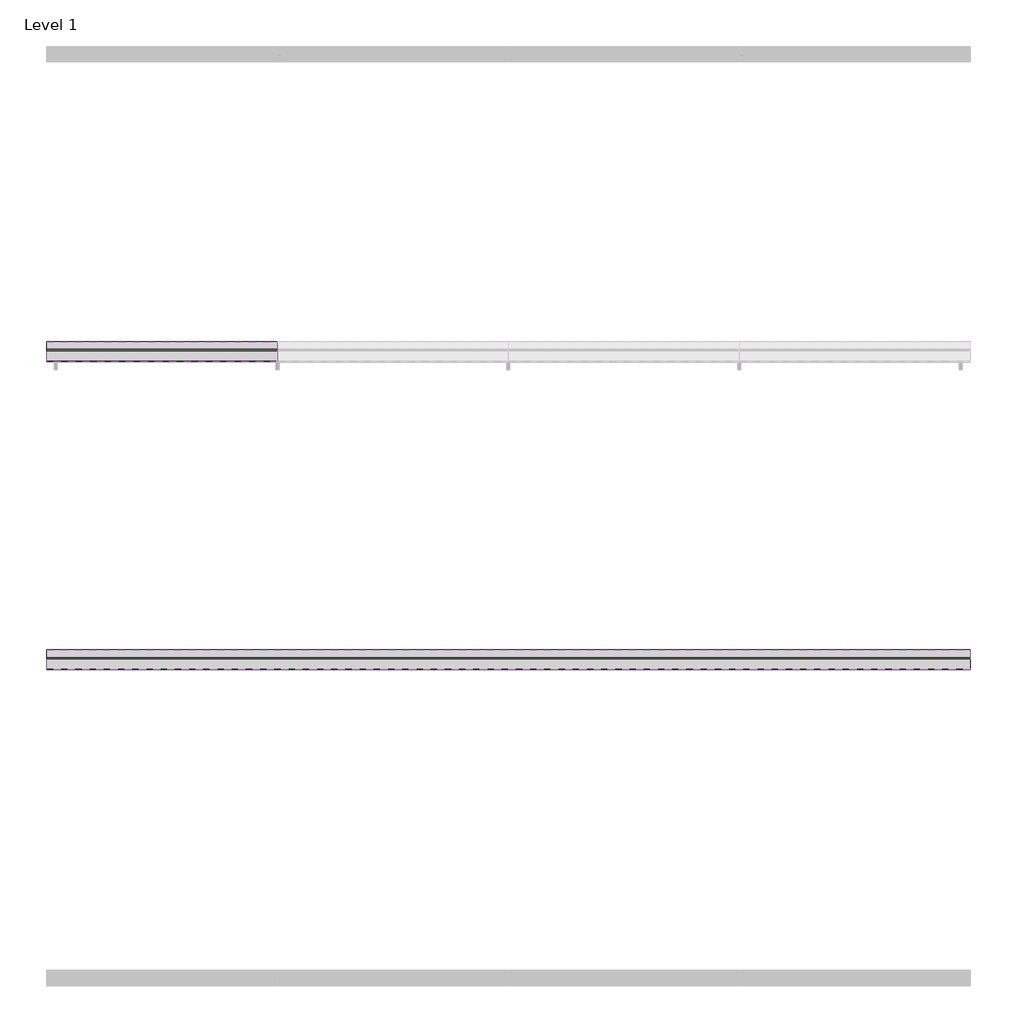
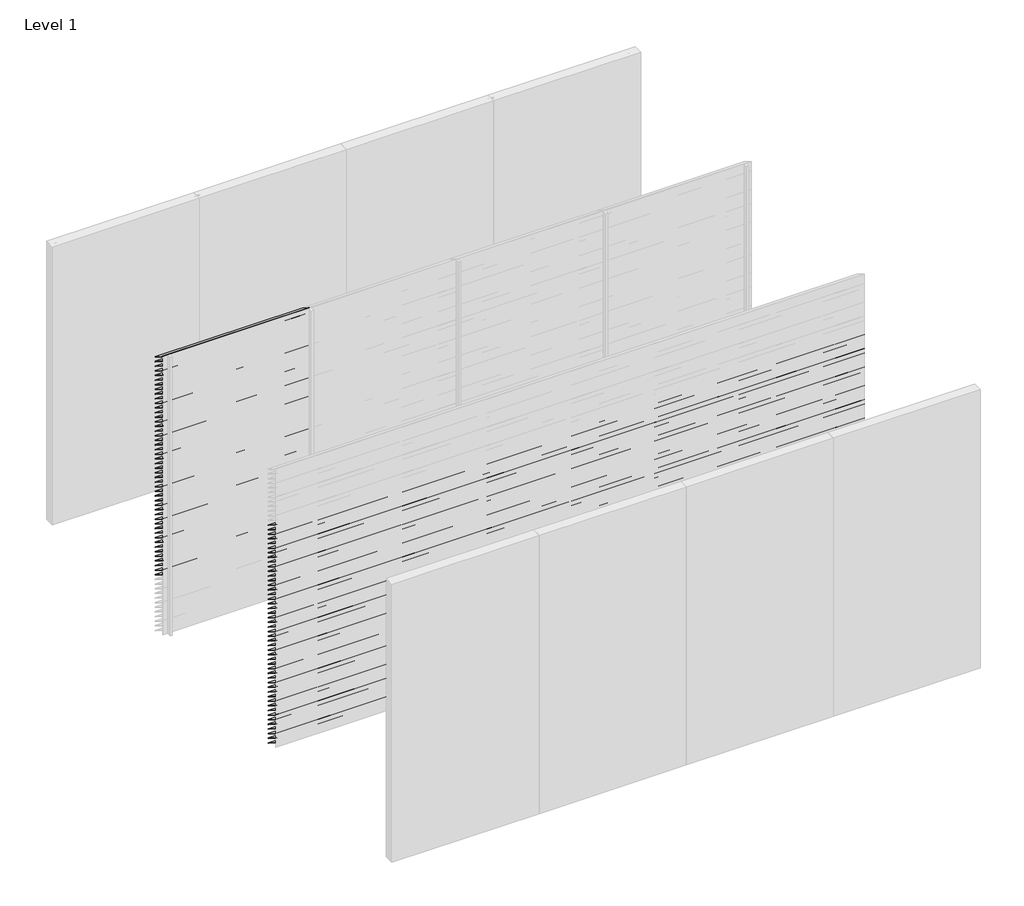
# One storey, part 8 of 13: 96 proxies.
"""IFC4 building model written with IfcOpenShell, lengths in millimetres."""

from ifc_helpers import new_model, si_unit, frame, origin, place, context, project, spatial, polyline, outline, extrude, element, save

model = new_model("IFC4")

# Units and contexts
model_context = context("Model", 3, world=origin())
ifc_project = project(units=[si_unit("LENGTHUNIT", "METRE", prefix="MILLI")], contexts=[model_context])

# Site, building, storey
site = spatial("IfcSite", under=ifc_project)
building = spatial("IfcBuilding", under=site)
storey = spatial("IfcBuildingStorey", under=building, Name="Level 1", Elevation=0.0)

# Proxies
placement = place(None, origin())
element("IfcBuildingElementProxy", 1, Name="Wall Sweeps", at=placement, inside=storey, context=model_context, shape_type="SweptSolid", body=[
    extrude(outline(polyline([(-5995.0, 3000.0), (-5995.0, 2998.0), (-5868.0, 2919.0), (-5868.0, 2913.0), (-5997.0, 2993.2440945), (-5997.0, 3000.0), (-5995.0, 3000.0)])), frame((0.0, 0.0, 0.0), z_axis=(1.0, 0.0, 0.0), x_axis=(0.0, 1.0, 0.0)), (0.0, 0.0, 1.0), 1500.0),
])
element("IfcBuildingElementProxy", 2, Name="Wall Sweeps", at=placement, inside=storey, context=model_context, shape_type="SweptSolid", body=[
    extrude(outline(polyline([(-5995.0, 2950.0), (-5995.0, 2948.0), (-5868.0, 2869.0), (-5868.0, 2863.0), (-5997.0, 2943.2440945), (-5997.0, 2950.0), (-5995.0, 2950.0)])), frame((0.0, 0.0, 0.0), z_axis=(1.0, 0.0, 0.0), x_axis=(0.0, 1.0, 0.0)), (0.0, 0.0, 1.0), 1500.0),
])
element("IfcBuildingElementProxy", 3, Name="Wall Sweeps", at=placement, inside=storey, context=model_context, shape_type="SweptSolid", body=[
    extrude(outline(polyline([(-5995.0, 2900.0), (-5995.0, 2898.0), (-5868.0, 2819.0), (-5868.0, 2813.0), (-5997.0, 2893.2440945), (-5997.0, 2900.0), (-5995.0, 2900.0)])), frame((0.0, 0.0, 0.0), z_axis=(1.0, 0.0, 0.0), x_axis=(0.0, 1.0, 0.0)), (0.0, 0.0, 1.0), 1500.0),
])
element("IfcBuildingElementProxy", 4, Name="Wall Sweeps", at=placement, inside=storey, context=model_context, shape_type="SweptSolid", body=[
    extrude(outline(polyline([(-5995.0, 2850.0), (-5995.0, 2848.0), (-5868.0, 2769.0), (-5868.0, 2763.0), (-5997.0, 2843.2440945), (-5997.0, 2850.0), (-5995.0, 2850.0)])), frame((0.0, 0.0, 0.0), z_axis=(1.0, 0.0, 0.0), x_axis=(0.0, 1.0, 0.0)), (0.0, 0.0, 1.0), 1500.0),
])
element("IfcBuildingElementProxy", 5, Name="Wall Sweeps", at=placement, inside=storey, context=model_context, shape_type="SweptSolid", body=[
    extrude(outline(polyline([(-5995.0, 2800.0), (-5995.0, 2798.0), (-5868.0, 2719.0), (-5868.0, 2713.0), (-5997.0, 2793.2440945), (-5997.0, 2800.0), (-5995.0, 2800.0)])), frame((0.0, 0.0, 0.0), z_axis=(1.0, 0.0, 0.0), x_axis=(0.0, 1.0, 0.0)), (0.0, 0.0, 1.0), 1500.0),
])
element("IfcBuildingElementProxy", 6, Name="Wall Sweeps", at=placement, inside=storey, context=model_context, shape_type="SweptSolid", body=[
    extrude(outline(polyline([(-5995.0, 2750.0), (-5995.0, 2748.0), (-5868.0, 2669.0), (-5868.0, 2663.0), (-5997.0, 2743.2440945), (-5997.0, 2750.0), (-5995.0, 2750.0)])), frame((0.0, 0.0, 0.0), z_axis=(1.0, 0.0, 0.0), x_axis=(0.0, 1.0, 0.0)), (0.0, 0.0, 1.0), 1500.0),
])
element("IfcBuildingElementProxy", 7, Name="Wall Sweeps", at=placement, inside=storey, context=model_context, shape_type="SweptSolid", body=[
    extrude(outline(polyline([(-5995.0, 2700.0), (-5995.0, 2698.0), (-5868.0, 2619.0), (-5868.0, 2613.0), (-5997.0, 2693.2440945), (-5997.0, 2700.0), (-5995.0, 2700.0)])), frame((0.0, 0.0, 0.0), z_axis=(1.0, 0.0, 0.0), x_axis=(0.0, 1.0, 0.0)), (0.0, 0.0, 1.0), 1500.0),
])
element("IfcBuildingElementProxy", 8, Name="Wall Sweeps", at=placement, inside=storey, context=model_context, shape_type="SweptSolid", body=[
    extrude(outline(polyline([(-5995.0, 2650.0), (-5995.0, 2648.0), (-5868.0, 2569.0), (-5868.0, 2563.0), (-5997.0, 2643.2440945), (-5997.0, 2650.0), (-5995.0, 2650.0)])), frame((0.0, 0.0, 0.0), z_axis=(1.0, 0.0, 0.0), x_axis=(0.0, 1.0, 0.0)), (0.0, 0.0, 1.0), 1500.0),
])
element("IfcBuildingElementProxy", 9, Name="Wall Sweeps", at=placement, inside=storey, context=model_context, shape_type="SweptSolid", body=[
    extrude(outline(polyline([(-5995.0, 2600.0), (-5995.0, 2598.0), (-5868.0, 2519.0), (-5868.0, 2513.0), (-5997.0, 2593.2440945), (-5997.0, 2600.0), (-5995.0, 2600.0)])), frame((0.0, 0.0, 0.0), z_axis=(1.0, 0.0, 0.0), x_axis=(0.0, 1.0, 0.0)), (0.0, 0.0, 1.0), 1500.0),
])
element("IfcBuildingElementProxy", 10, Name="Wall Sweeps", at=placement, inside=storey, context=model_context, shape_type="SweptSolid", body=[
    extrude(outline(polyline([(-5995.0, 2550.0), (-5995.0, 2548.0), (-5868.0, 2469.0), (-5868.0, 2463.0), (-5997.0, 2543.2440945), (-5997.0, 2550.0), (-5995.0, 2550.0)])), frame((0.0, 0.0, 0.0), z_axis=(1.0, 0.0, 0.0), x_axis=(0.0, 1.0, 0.0)), (0.0, 0.0, 1.0), 1500.0),
])
element("IfcBuildingElementProxy", 11, Name="Wall Sweeps", at=placement, inside=storey, context=model_context, shape_type="SweptSolid", body=[
    extrude(outline(polyline([(-5995.0, 2500.0), (-5995.0, 2498.0), (-5868.0, 2419.0), (-5868.0, 2413.0), (-5997.0, 2493.2440945), (-5997.0, 2500.0), (-5995.0, 2500.0)])), frame((0.0, 0.0, 0.0), z_axis=(1.0, 0.0, 0.0), x_axis=(0.0, 1.0, 0.0)), (0.0, 0.0, 1.0), 1500.0),
])
element("IfcBuildingElementProxy", 12, Name="Wall Sweeps", at=placement, inside=storey, context=model_context, shape_type="SweptSolid", body=[
    extrude(outline(polyline([(-5995.0, 2450.0), (-5995.0, 2448.0), (-5868.0, 2369.0), (-5868.0, 2363.0), (-5997.0, 2443.2440945), (-5997.0, 2450.0), (-5995.0, 2450.0)])), frame((0.0, 0.0, 0.0), z_axis=(1.0, 0.0, 0.0), x_axis=(0.0, 1.0, 0.0)), (0.0, 0.0, 1.0), 1500.0),
])
element("IfcBuildingElementProxy", 13, Name="Wall Sweeps", at=placement, inside=storey, context=model_context, shape_type="SweptSolid", body=[
    extrude(outline(polyline([(-5995.0, 2400.0), (-5995.0, 2398.0), (-5868.0, 2319.0), (-5868.0, 2313.0), (-5997.0, 2393.2440945), (-5997.0, 2400.0), (-5995.0, 2400.0)])), frame((0.0, 0.0, 0.0), z_axis=(1.0, 0.0, 0.0), x_axis=(0.0, 1.0, 0.0)), (0.0, 0.0, 1.0), 1500.0),
])
element("IfcBuildingElementProxy", 14, Name="Wall Sweeps", at=placement, inside=storey, context=model_context, shape_type="SweptSolid", body=[
    extrude(outline(polyline([(-5995.0, 2350.0), (-5995.0, 2348.0), (-5868.0, 2269.0), (-5868.0, 2263.0), (-5997.0, 2343.2440945), (-5997.0, 2350.0), (-5995.0, 2350.0)])), frame((0.0, 0.0, 0.0), z_axis=(1.0, 0.0, 0.0), x_axis=(0.0, 1.0, 0.0)), (0.0, 0.0, 1.0), 1500.0),
])
element("IfcBuildingElementProxy", 15, Name="Wall Sweeps", at=placement, inside=storey, context=model_context, shape_type="SweptSolid", body=[
    extrude(outline(polyline([(-5995.0, 2300.0), (-5995.0, 2298.0), (-5868.0, 2219.0), (-5868.0, 2213.0), (-5997.0, 2293.2440945), (-5997.0, 2300.0), (-5995.0, 2300.0)])), frame((0.0, 0.0, 0.0), z_axis=(1.0, 0.0, 0.0), x_axis=(0.0, 1.0, 0.0)), (0.0, 0.0, 1.0), 1500.0),
])
element("IfcBuildingElementProxy", 16, Name="Wall Sweeps", at=placement, inside=storey, context=model_context, shape_type="SweptSolid", body=[
    extrude(outline(polyline([(-5995.0, 2250.0), (-5995.0, 2248.0), (-5868.0, 2169.0), (-5868.0, 2163.0), (-5997.0, 2243.2440945), (-5997.0, 2250.0), (-5995.0, 2250.0)])), frame((0.0, 0.0, 0.0), z_axis=(1.0, 0.0, 0.0), x_axis=(0.0, 1.0, 0.0)), (0.0, 0.0, 1.0), 1500.0),
])
element("IfcBuildingElementProxy", 17, Name="Wall Sweeps", at=placement, inside=storey, context=model_context, shape_type="SweptSolid", body=[
    extrude(outline(polyline([(-5995.0, 2200.0), (-5995.0, 2198.0), (-5868.0, 2119.0), (-5868.0, 2113.0), (-5997.0, 2193.2440945), (-5997.0, 2200.0), (-5995.0, 2200.0)])), frame((0.0, 0.0, 0.0), z_axis=(1.0, 0.0, 0.0), x_axis=(0.0, 1.0, 0.0)), (0.0, 0.0, 1.0), 1500.0),
])
element("IfcBuildingElementProxy", 18, Name="Wall Sweeps", at=placement, inside=storey, context=model_context, shape_type="SweptSolid", body=[
    extrude(outline(polyline([(-5995.0, 2150.0), (-5995.0, 2148.0), (-5868.0, 2069.0), (-5868.0, 2063.0), (-5997.0, 2143.2440945), (-5997.0, 2150.0), (-5995.0, 2150.0)])), frame((0.0, 0.0, 0.0), z_axis=(1.0, 0.0, 0.0), x_axis=(0.0, 1.0, 0.0)), (0.0, 0.0, 1.0), 1500.0),
])
element("IfcBuildingElementProxy", 19, Name="Wall Sweeps", at=placement, inside=storey, context=model_context, shape_type="SweptSolid", body=[
    extrude(outline(polyline([(-5995.0, 2100.0), (-5995.0, 2098.0), (-5868.0, 2019.0), (-5868.0, 2013.0), (-5997.0, 2093.2440945), (-5997.0, 2100.0), (-5995.0, 2100.0)])), frame((0.0, 0.0, 0.0), z_axis=(1.0, 0.0, 0.0), x_axis=(0.0, 1.0, 0.0)), (0.0, 0.0, 1.0), 1500.0),
])
element("IfcBuildingElementProxy", 20, Name="Wall Sweeps", at=placement, inside=storey, context=model_context, shape_type="SweptSolid", body=[
    extrude(outline(polyline([(-5995.0, 2050.0), (-5995.0, 2048.0), (-5868.0, 1969.0), (-5868.0, 1963.0), (-5997.0, 2043.2440945), (-5997.0, 2050.0), (-5995.0, 2050.0)])), frame((0.0, 0.0, 0.0), z_axis=(1.0, 0.0, 0.0), x_axis=(0.0, 1.0, 0.0)), (0.0, 0.0, 1.0), 1500.0),
])
element("IfcBuildingElementProxy", 21, Name="Wall Sweeps", at=placement, inside=storey, context=model_context, shape_type="SweptSolid", body=[
    extrude(outline(polyline([(-5995.0, 2000.0), (-5995.0, 1998.0), (-5868.0, 1919.0), (-5868.0, 1913.0), (-5997.0, 1993.2440945), (-5997.0, 2000.0), (-5995.0, 2000.0)])), frame((0.0, 0.0, 0.0), z_axis=(1.0, 0.0, 0.0), x_axis=(0.0, 1.0, 0.0)), (0.0, 0.0, 1.0), 1500.0),
])
element("IfcBuildingElementProxy", 22, Name="Wall Sweeps", at=placement, inside=storey, context=model_context, shape_type="SweptSolid", body=[
    extrude(outline(polyline([(-5995.0, 1950.0), (-5995.0, 1948.0), (-5868.0, 1869.0), (-5868.0, 1863.0), (-5997.0, 1943.2440945), (-5997.0, 1950.0), (-5995.0, 1950.0)])), frame((0.0, 0.0, 0.0), z_axis=(1.0, 0.0, 0.0), x_axis=(0.0, 1.0, 0.0)), (0.0, 0.0, 1.0), 1500.0),
])
element("IfcBuildingElementProxy", 23, Name="Wall Sweeps", at=placement, inside=storey, context=model_context, shape_type="SweptSolid", body=[
    extrude(outline(polyline([(-5995.0, 1900.0), (-5995.0, 1898.0), (-5868.0, 1819.0), (-5868.0, 1813.0), (-5997.0, 1893.2440945), (-5997.0, 1900.0), (-5995.0, 1900.0)])), frame((0.0, 0.0, 0.0), z_axis=(1.0, 0.0, 0.0), x_axis=(0.0, 1.0, 0.0)), (0.0, 0.0, 1.0), 1500.0),
])
element("IfcBuildingElementProxy", 24, Name="Wall Sweeps", at=placement, inside=storey, context=model_context, shape_type="SweptSolid", body=[
    extrude(outline(polyline([(-5995.0, 1850.0), (-5995.0, 1848.0), (-5868.0, 1769.0), (-5868.0, 1763.0), (-5997.0, 1843.2440945), (-5997.0, 1850.0), (-5995.0, 1850.0)])), frame((0.0, 0.0, 0.0), z_axis=(1.0, 0.0, 0.0), x_axis=(0.0, 1.0, 0.0)), (0.0, 0.0, 1.0), 1500.0),
])
element("IfcBuildingElementProxy", 25, Name="Wall Sweeps", at=placement, inside=storey, context=model_context, shape_type="SweptSolid", body=[
    extrude(outline(polyline([(-5995.0, 1800.0), (-5995.0, 1798.0), (-5868.0, 1719.0), (-5868.0, 1713.0), (-5997.0, 1793.2440945), (-5997.0, 1800.0), (-5995.0, 1800.0)])), frame((0.0, 0.0, 0.0), z_axis=(1.0, 0.0, 0.0), x_axis=(0.0, 1.0, 0.0)), (0.0, 0.0, 1.0), 1500.0),
])
element("IfcBuildingElementProxy", 26, Name="Wall Sweeps", at=placement, inside=storey, context=model_context, shape_type="SweptSolid", body=[
    extrude(outline(polyline([(-5995.0, 1750.0), (-5995.0, 1748.0), (-5868.0, 1669.0), (-5868.0, 1663.0), (-5997.0, 1743.2440945), (-5997.0, 1750.0), (-5995.0, 1750.0)])), frame((0.0, 0.0, 0.0), z_axis=(1.0, 0.0, 0.0), x_axis=(0.0, 1.0, 0.0)), (0.0, 0.0, 1.0), 1500.0),
])
element("IfcBuildingElementProxy", 27, Name="Wall Sweeps", at=placement, inside=storey, context=model_context, shape_type="SweptSolid", body=[
    extrude(outline(polyline([(-5995.0, 1700.0), (-5995.0, 1698.0), (-5868.0, 1619.0), (-5868.0, 1613.0), (-5997.0, 1693.2440945), (-5997.0, 1700.0), (-5995.0, 1700.0)])), frame((0.0, 0.0, 0.0), z_axis=(1.0, 0.0, 0.0), x_axis=(0.0, 1.0, 0.0)), (0.0, 0.0, 1.0), 1500.0),
])
element("IfcBuildingElementProxy", 28, Name="Wall Sweeps", at=placement, inside=storey, context=model_context, shape_type="SweptSolid", body=[
    extrude(outline(polyline([(-5995.0, 1650.0), (-5995.0, 1648.0), (-5868.0, 1569.0), (-5868.0, 1563.0), (-5997.0, 1643.2440945), (-5997.0, 1650.0), (-5995.0, 1650.0)])), frame((0.0, 0.0, 0.0), z_axis=(1.0, 0.0, 0.0), x_axis=(0.0, 1.0, 0.0)), (0.0, 0.0, 1.0), 1500.0),
])
element("IfcBuildingElementProxy", 29, Name="Wall Sweeps", at=placement, inside=storey, context=model_context, shape_type="SweptSolid", body=[
    extrude(outline(polyline([(-5995.0, 1600.0), (-5995.0, 1598.0), (-5868.0, 1519.0), (-5868.0, 1513.0), (-5997.0, 1593.2440945), (-5997.0, 1600.0), (-5995.0, 1600.0)])), frame((0.0, 0.0, 0.0), z_axis=(1.0, 0.0, 0.0), x_axis=(0.0, 1.0, 0.0)), (0.0, 0.0, 1.0), 1500.0),
])
element("IfcBuildingElementProxy", 30, Name="Wall Sweeps", at=placement, inside=storey, context=model_context, shape_type="SweptSolid", body=[
    extrude(outline(polyline([(-5995.0, 1550.0), (-5995.0, 1548.0), (-5868.0, 1469.0), (-5868.0, 1463.0), (-5997.0, 1543.2440945), (-5997.0, 1550.0), (-5995.0, 1550.0)])), frame((0.0, 0.0, 0.0), z_axis=(1.0, 0.0, 0.0), x_axis=(0.0, 1.0, 0.0)), (0.0, 0.0, 1.0), 1500.0),
])
element("IfcBuildingElementProxy", 31, Name="Wall Sweeps", at=placement, inside=storey, context=model_context, shape_type="SweptSolid", body=[
    extrude(outline(polyline([(-5995.0, 1500.0), (-5995.0, 1498.0), (-5868.0, 1419.0), (-5868.0, 1413.0), (-5997.0, 1493.2440945), (-5997.0, 1500.0), (-5995.0, 1500.0)])), frame((0.0, 0.0, 0.0), z_axis=(1.0, 0.0, 0.0), x_axis=(0.0, 1.0, 0.0)), (0.0, 0.0, 1.0), 1500.0),
])
element("IfcBuildingElementProxy", 32, Name="Wall Sweeps", at=placement, inside=storey, context=model_context, shape_type="SweptSolid", body=[
    extrude(outline(polyline([(-5995.0, 1450.0), (-5995.0, 1448.0), (-5868.0, 1369.0), (-5868.0, 1363.0), (-5997.0, 1443.2440945), (-5997.0, 1450.0), (-5995.0, 1450.0)])), frame((0.0, 0.0, 0.0), z_axis=(1.0, 0.0, 0.0), x_axis=(0.0, 1.0, 0.0)), (0.0, 0.0, 1.0), 1500.0),
])
element("IfcBuildingElementProxy", 33, Name="Wall Sweeps", at=placement, inside=storey, context=model_context, shape_type="SweptSolid", body=[
    extrude(outline(polyline([(-5995.0, 1400.0), (-5995.0, 1398.0), (-5868.0, 1319.0), (-5868.0, 1313.0), (-5997.0, 1393.2440945), (-5997.0, 1400.0), (-5995.0, 1400.0)])), frame((0.0, 0.0, 0.0), z_axis=(1.0, 0.0, 0.0), x_axis=(0.0, 1.0, 0.0)), (0.0, 0.0, 1.0), 1500.0),
])
element("IfcBuildingElementProxy", 34, Name="Wall Sweeps", at=placement, inside=storey, context=model_context, shape_type="SweptSolid", body=[
    extrude(outline(polyline([(-5995.0, 1350.0), (-5995.0, 1348.0), (-5868.0, 1269.0), (-5868.0, 1263.0), (-5997.0, 1343.2440945), (-5997.0, 1350.0), (-5995.0, 1350.0)])), frame((0.0, 0.0, 0.0), z_axis=(1.0, 0.0, 0.0), x_axis=(0.0, 1.0, 0.0)), (0.0, 0.0, 1.0), 1500.0),
])
element("IfcBuildingElementProxy", 35, Name="Wall Sweeps", at=placement, inside=storey, context=model_context, shape_type="SweptSolid", body=[
    extrude(outline(polyline([(-5995.0, 1300.0), (-5995.0, 1298.0), (-5868.0, 1219.0), (-5868.0, 1213.0), (-5997.0, 1293.2440945), (-5997.0, 1300.0), (-5995.0, 1300.0)])), frame((0.0, 0.0, 0.0), z_axis=(1.0, 0.0, 0.0), x_axis=(0.0, 1.0, 0.0)), (0.0, 0.0, 1.0), 1500.0),
])
element("IfcBuildingElementProxy", 36, Name="Wall Sweeps", at=placement, inside=storey, context=model_context, shape_type="SweptSolid", body=[
    extrude(outline(polyline([(-5995.0, 1250.0), (-5995.0, 1248.0), (-5868.0, 1169.0), (-5868.0, 1163.0), (-5997.0, 1243.2440945), (-5997.0, 1250.0), (-5995.0, 1250.0)])), frame((0.0, 0.0, 0.0), z_axis=(1.0, 0.0, 0.0), x_axis=(0.0, 1.0, 0.0)), (0.0, 0.0, 1.0), 1500.0),
])
element("IfcBuildingElementProxy", 37, Name="Wall Sweeps", at=placement, inside=storey, context=model_context, shape_type="SweptSolid", body=[
    extrude(outline(polyline([(-5995.0, 1200.0), (-5995.0, 1198.0), (-5868.0, 1119.0), (-5868.0, 1113.0), (-5997.0, 1193.2440945), (-5997.0, 1200.0), (-5995.0, 1200.0)])), frame((0.0, 0.0, 0.0), z_axis=(1.0, 0.0, 0.0), x_axis=(0.0, 1.0, 0.0)), (0.0, 0.0, 1.0), 1500.0),
])
element("IfcBuildingElementProxy", 38, Name="Wall Sweeps", at=placement, inside=storey, context=model_context, shape_type="SweptSolid", body=[
    extrude(outline(polyline([(-5995.0, 1150.0), (-5995.0, 1148.0), (-5868.0, 1069.0), (-5868.0, 1063.0), (-5997.0, 1143.2440945), (-5997.0, 1150.0), (-5995.0, 1150.0)])), frame((0.0, 0.0, 0.0), z_axis=(1.0, 0.0, 0.0), x_axis=(0.0, 1.0, 0.0)), (0.0, 0.0, 1.0), 1500.0),
])
element("IfcBuildingElementProxy", 39, Name="Wall Sweeps", at=placement, inside=storey, context=model_context, shape_type="SweptSolid", body=[
    extrude(outline(polyline([(-5995.0, 1100.0), (-5995.0, 1098.0), (-5868.0, 1019.0), (-5868.0, 1013.0), (-5997.0, 1093.2440945), (-5997.0, 1100.0), (-5995.0, 1100.0)])), frame((0.0, 0.0, 0.0), z_axis=(1.0, 0.0, 0.0), x_axis=(0.0, 1.0, 0.0)), (0.0, 0.0, 1.0), 1500.0),
])
element("IfcBuildingElementProxy", 40, Name="Wall Sweeps", at=placement, inside=storey, context=model_context, shape_type="SweptSolid", body=[
    extrude(outline(polyline([(-5995.0, 1050.0), (-5995.0, 1048.0), (-5868.0, 969.0), (-5868.0, 963.0), (-5997.0, 1043.2440945), (-5997.0, 1050.0), (-5995.0, 1050.0)])), frame((0.0, 0.0, 0.0), z_axis=(1.0, 0.0, 0.0), x_axis=(0.0, 1.0, 0.0)), (0.0, 0.0, 1.0), 1500.0),
])
element("IfcBuildingElementProxy", 41, Name="Wall Sweeps", at=placement, inside=storey, context=model_context, shape_type="SweptSolid", body=[
    extrude(outline(polyline([(-5995.0, 1000.0), (-5995.0, 998.0), (-5868.0, 919.0), (-5868.0, 913.0), (-5997.0, 993.2440945), (-5997.0, 1000.0), (-5995.0, 1000.0)])), frame((0.0, 0.0, 0.0), z_axis=(1.0, 0.0, 0.0), x_axis=(0.0, 1.0, 0.0)), (0.0, 0.0, 1.0), 1500.0),
])
element("IfcBuildingElementProxy", 42, Name="Wall Sweeps", at=placement, inside=storey, context=model_context, shape_type="SweptSolid", body=[
    extrude(outline(polyline([(-5995.0, 950.0), (-5995.0, 948.0), (-5868.0, 869.0), (-5868.0, 863.0), (-5997.0, 943.2440945), (-5997.0, 950.0), (-5995.0, 950.0)])), frame((0.0, 0.0, 0.0), z_axis=(1.0, 0.0, 0.0), x_axis=(0.0, 1.0, 0.0)), (0.0, 0.0, 1.0), 1500.0),
])
element("IfcBuildingElementProxy", 43, Name="Wall Sweeps", at=placement, inside=storey, context=model_context, shape_type="SweptSolid", body=[
    extrude(outline(polyline([(-5995.0, 900.0), (-5995.0, 898.0), (-5868.0, 819.0), (-5868.0, 813.0), (-5997.0, 893.2440945), (-5997.0, 900.0), (-5995.0, 900.0)])), frame((0.0, 0.0, 0.0), z_axis=(1.0, 0.0, 0.0), x_axis=(0.0, 1.0, 0.0)), (0.0, 0.0, 1.0), 1500.0),
])
element("IfcBuildingElementProxy", 44, Name="Wall Sweeps", at=placement, inside=storey, context=model_context, shape_type="SweptSolid", body=[
    extrude(outline(polyline([(-5995.0, 850.0), (-5995.0, 848.0), (-5868.0, 769.0), (-5868.0, 763.0), (-5997.0, 843.2440945), (-5997.0, 850.0), (-5995.0, 850.0)])), frame((0.0, 0.0, 0.0), z_axis=(1.0, 0.0, 0.0), x_axis=(0.0, 1.0, 0.0)), (0.0, 0.0, 1.0), 1500.0),
])
element("IfcBuildingElementProxy", 45, Name="Wall Sweeps", at=placement, inside=storey, context=model_context, shape_type="SweptSolid", body=[
    extrude(outline(polyline([(-5995.0, 800.0), (-5995.0, 798.0), (-5868.0, 719.0), (-5868.0, 713.0), (-5997.0, 793.2440945), (-5997.0, 800.0), (-5995.0, 800.0)])), frame((0.0, 0.0, 0.0), z_axis=(1.0, 0.0, 0.0), x_axis=(0.0, 1.0, 0.0)), (0.0, 0.0, 1.0), 1500.0),
])
element("IfcBuildingElementProxy", 46, Name="Wall Sweeps", at=placement, inside=storey, context=model_context, shape_type="SweptSolid", body=[
    extrude(outline(polyline([(-5995.0, 750.0), (-5995.0, 748.0), (-5868.0, 669.0), (-5868.0, 663.0), (-5997.0, 743.2440945), (-5997.0, 750.0), (-5995.0, 750.0)])), frame((0.0, 0.0, 0.0), z_axis=(1.0, 0.0, 0.0), x_axis=(0.0, 1.0, 0.0)), (0.0, 0.0, 1.0), 1500.0),
])
element("IfcBuildingElementProxy", 47, Name="Wall Sweeps", at=placement, inside=storey, context=model_context, shape_type="SweptSolid", body=[
    extrude(outline(polyline([(-5995.0, 700.0), (-5995.0, 698.0), (-5868.0, 619.0), (-5868.0, 613.0), (-5997.0, 693.2440945), (-5997.0, 700.0), (-5995.0, 700.0)])), frame((0.0, 0.0, 0.0), z_axis=(1.0, 0.0, 0.0), x_axis=(0.0, 1.0, 0.0)), (0.0, 0.0, 1.0), 1500.0),
])
element("IfcBuildingElementProxy", 48, Name="Wall Sweeps", at=placement, inside=storey, context=model_context, shape_type="SweptSolid", body=[
    extrude(outline(polyline([(-5995.0, 650.0), (-5995.0, 648.0), (-5868.0, 569.0), (-5868.0, 563.0), (-5997.0, 643.2440945), (-5997.0, 650.0), (-5995.0, 650.0)])), frame((0.0, 0.0, 0.0), z_axis=(1.0, 0.0, 0.0), x_axis=(0.0, 1.0, 0.0)), (0.0, 0.0, 1.0), 1500.0),
])
element("IfcBuildingElementProxy", 49, Name="Wall Sweeps", at=placement, inside=storey, context=model_context, shape_type="SweptSolid", body=[
    extrude(outline(polyline([(-7995.0, 2400.0), (-7995.0, 2398.0), (-7868.0, 2319.0), (-7868.0, 2313.0), (-7997.0, 2393.2440945), (-7997.0, 2400.0), (-7995.0, 2400.0)])), frame((0.0, 0.0, 0.0), z_axis=(1.0, 0.0, 0.0), x_axis=(0.0, 1.0, 0.0)), (0.0, 0.0, 1.0), 6000.0),
])
element("IfcBuildingElementProxy", 50, Name="Wall Sweeps", at=placement, inside=storey, context=model_context, shape_type="SweptSolid", body=[
    extrude(outline(polyline([(-7995.0, 2350.0), (-7995.0, 2348.0), (-7868.0, 2269.0), (-7868.0, 2263.0), (-7997.0, 2343.2440945), (-7997.0, 2350.0), (-7995.0, 2350.0)])), frame((0.0, 0.0, 0.0), z_axis=(1.0, 0.0, 0.0), x_axis=(0.0, 1.0, 0.0)), (0.0, 0.0, 1.0), 6000.0),
])
element("IfcBuildingElementProxy", 51, Name="Wall Sweeps", at=placement, inside=storey, context=model_context, shape_type="SweptSolid", body=[
    extrude(outline(polyline([(-7995.0, 2300.0), (-7995.0, 2298.0), (-7868.0, 2219.0), (-7868.0, 2213.0), (-7997.0, 2293.2440945), (-7997.0, 2300.0), (-7995.0, 2300.0)])), frame((0.0, 0.0, 0.0), z_axis=(1.0, 0.0, 0.0), x_axis=(0.0, 1.0, 0.0)), (0.0, 0.0, 1.0), 6000.0),
])
element("IfcBuildingElementProxy", 52, Name="Wall Sweeps", at=placement, inside=storey, context=model_context, shape_type="SweptSolid", body=[
    extrude(outline(polyline([(-7995.0, 2250.0), (-7995.0, 2248.0), (-7868.0, 2169.0), (-7868.0, 2163.0), (-7997.0, 2243.2440945), (-7997.0, 2250.0), (-7995.0, 2250.0)])), frame((0.0, 0.0, 0.0), z_axis=(1.0, 0.0, 0.0), x_axis=(0.0, 1.0, 0.0)), (0.0, 0.0, 1.0), 6000.0),
])
element("IfcBuildingElementProxy", 53, Name="Wall Sweeps", at=placement, inside=storey, context=model_context, shape_type="SweptSolid", body=[
    extrude(outline(polyline([(-7995.0, 2200.0), (-7995.0, 2198.0), (-7868.0, 2119.0), (-7868.0, 2113.0), (-7997.0, 2193.2440945), (-7997.0, 2200.0), (-7995.0, 2200.0)])), frame((0.0, 0.0, 0.0), z_axis=(1.0, 0.0, 0.0), x_axis=(0.0, 1.0, 0.0)), (0.0, 0.0, 1.0), 6000.0),
])
element("IfcBuildingElementProxy", 54, Name="Wall Sweeps", at=placement, inside=storey, context=model_context, shape_type="SweptSolid", body=[
    extrude(outline(polyline([(-7995.0, 2150.0), (-7995.0, 2148.0), (-7868.0, 2069.0), (-7868.0, 2063.0), (-7997.0, 2143.2440945), (-7997.0, 2150.0), (-7995.0, 2150.0)])), frame((0.0, 0.0, 0.0), z_axis=(1.0, 0.0, 0.0), x_axis=(0.0, 1.0, 0.0)), (0.0, 0.0, 1.0), 6000.0),
])
element("IfcBuildingElementProxy", 55, Name="Wall Sweeps", at=placement, inside=storey, context=model_context, shape_type="SweptSolid", body=[
    extrude(outline(polyline([(-7995.0, 2100.0), (-7995.0, 2098.0), (-7868.0, 2019.0), (-7868.0, 2013.0), (-7997.0, 2093.2440945), (-7997.0, 2100.0), (-7995.0, 2100.0)])), frame((0.0, 0.0, 0.0), z_axis=(1.0, 0.0, 0.0), x_axis=(0.0, 1.0, 0.0)), (0.0, 0.0, 1.0), 6000.0),
])
element("IfcBuildingElementProxy", 56, Name="Wall Sweeps", at=placement, inside=storey, context=model_context, shape_type="SweptSolid", body=[
    extrude(outline(polyline([(-7995.0, 2050.0), (-7995.0, 2048.0), (-7868.0, 1969.0), (-7868.0, 1963.0), (-7997.0, 2043.2440945), (-7997.0, 2050.0), (-7995.0, 2050.0)])), frame((0.0, 0.0, 0.0), z_axis=(1.0, 0.0, 0.0), x_axis=(0.0, 1.0, 0.0)), (0.0, 0.0, 1.0), 6000.0),
])
element("IfcBuildingElementProxy", 57, Name="Wall Sweeps", at=placement, inside=storey, context=model_context, shape_type="SweptSolid", body=[
    extrude(outline(polyline([(-7995.0, 2000.0), (-7995.0, 1998.0), (-7868.0, 1919.0), (-7868.0, 1913.0), (-7997.0, 1993.2440945), (-7997.0, 2000.0), (-7995.0, 2000.0)])), frame((0.0, 0.0, 0.0), z_axis=(1.0, 0.0, 0.0), x_axis=(0.0, 1.0, 0.0)), (0.0, 0.0, 1.0), 6000.0),
])
element("IfcBuildingElementProxy", 58, Name="Wall Sweeps", at=placement, inside=storey, context=model_context, shape_type="SweptSolid", body=[
    extrude(outline(polyline([(-7995.0, 1950.0), (-7995.0, 1948.0), (-7868.0, 1869.0), (-7868.0, 1863.0), (-7997.0, 1943.2440945), (-7997.0, 1950.0), (-7995.0, 1950.0)])), frame((0.0, 0.0, 0.0), z_axis=(1.0, 0.0, 0.0), x_axis=(0.0, 1.0, 0.0)), (0.0, 0.0, 1.0), 6000.0),
])
element("IfcBuildingElementProxy", 59, Name="Wall Sweeps", at=placement, inside=storey, context=model_context, shape_type="SweptSolid", body=[
    extrude(outline(polyline([(-7995.0, 1900.0), (-7995.0, 1898.0), (-7868.0, 1819.0), (-7868.0, 1813.0), (-7997.0, 1893.2440945), (-7997.0, 1900.0), (-7995.0, 1900.0)])), frame((0.0, 0.0, 0.0), z_axis=(1.0, 0.0, 0.0), x_axis=(0.0, 1.0, 0.0)), (0.0, 0.0, 1.0), 6000.0),
])
element("IfcBuildingElementProxy", 60, Name="Wall Sweeps", at=placement, inside=storey, context=model_context, shape_type="SweptSolid", body=[
    extrude(outline(polyline([(-7995.0, 1850.0), (-7995.0, 1848.0), (-7868.0, 1769.0), (-7868.0, 1763.0), (-7997.0, 1843.2440945), (-7997.0, 1850.0), (-7995.0, 1850.0)])), frame((0.0, 0.0, 0.0), z_axis=(1.0, 0.0, 0.0), x_axis=(0.0, 1.0, 0.0)), (0.0, 0.0, 1.0), 6000.0),
])
element("IfcBuildingElementProxy", 61, Name="Wall Sweeps", at=placement, inside=storey, context=model_context, shape_type="SweptSolid", body=[
    extrude(outline(polyline([(-7995.0, 1800.0), (-7995.0, 1798.0), (-7868.0, 1719.0), (-7868.0, 1713.0), (-7997.0, 1793.2440945), (-7997.0, 1800.0), (-7995.0, 1800.0)])), frame((0.0, 0.0, 0.0), z_axis=(1.0, 0.0, 0.0), x_axis=(0.0, 1.0, 0.0)), (0.0, 0.0, 1.0), 6000.0),
])
element("IfcBuildingElementProxy", 62, Name="Wall Sweeps", at=placement, inside=storey, context=model_context, shape_type="SweptSolid", body=[
    extrude(outline(polyline([(-7995.0, 1750.0), (-7995.0, 1748.0), (-7868.0, 1669.0), (-7868.0, 1663.0), (-7997.0, 1743.2440945), (-7997.0, 1750.0), (-7995.0, 1750.0)])), frame((0.0, 0.0, 0.0), z_axis=(1.0, 0.0, 0.0), x_axis=(0.0, 1.0, 0.0)), (0.0, 0.0, 1.0), 6000.0),
])
element("IfcBuildingElementProxy", 63, Name="Wall Sweeps", at=placement, inside=storey, context=model_context, shape_type="SweptSolid", body=[
    extrude(outline(polyline([(-7995.0, 1700.0), (-7995.0, 1698.0), (-7868.0, 1619.0), (-7868.0, 1613.0), (-7997.0, 1693.2440945), (-7997.0, 1700.0), (-7995.0, 1700.0)])), frame((0.0, 0.0, 0.0), z_axis=(1.0, 0.0, 0.0), x_axis=(0.0, 1.0, 0.0)), (0.0, 0.0, 1.0), 6000.0),
])
element("IfcBuildingElementProxy", 64, Name="Wall Sweeps", at=placement, inside=storey, context=model_context, shape_type="SweptSolid", body=[
    extrude(outline(polyline([(-7995.0, 1650.0), (-7995.0, 1648.0), (-7868.0, 1569.0), (-7868.0, 1563.0), (-7997.0, 1643.2440945), (-7997.0, 1650.0), (-7995.0, 1650.0)])), frame((0.0, 0.0, 0.0), z_axis=(1.0, 0.0, 0.0), x_axis=(0.0, 1.0, 0.0)), (0.0, 0.0, 1.0), 6000.0),
])
element("IfcBuildingElementProxy", 65, Name="Wall Sweeps", at=placement, inside=storey, context=model_context, shape_type="SweptSolid", body=[
    extrude(outline(polyline([(-7995.0, 1600.0), (-7995.0, 1598.0), (-7868.0, 1519.0), (-7868.0, 1513.0), (-7997.0, 1593.2440945), (-7997.0, 1600.0), (-7995.0, 1600.0)])), frame((0.0, 0.0, 0.0), z_axis=(1.0, 0.0, 0.0), x_axis=(0.0, 1.0, 0.0)), (0.0, 0.0, 1.0), 6000.0),
])
element("IfcBuildingElementProxy", 66, Name="Wall Sweeps", at=placement, inside=storey, context=model_context, shape_type="SweptSolid", body=[
    extrude(outline(polyline([(-7995.0, 1550.0), (-7995.0, 1548.0), (-7868.0, 1469.0), (-7868.0, 1463.0), (-7997.0, 1543.2440945), (-7997.0, 1550.0), (-7995.0, 1550.0)])), frame((0.0, 0.0, 0.0), z_axis=(1.0, 0.0, 0.0), x_axis=(0.0, 1.0, 0.0)), (0.0, 0.0, 1.0), 6000.0),
])
element("IfcBuildingElementProxy", 67, Name="Wall Sweeps", at=placement, inside=storey, context=model_context, shape_type="SweptSolid", body=[
    extrude(outline(polyline([(-7995.0, 1500.0), (-7995.0, 1498.0), (-7868.0, 1419.0), (-7868.0, 1413.0), (-7997.0, 1493.2440945), (-7997.0, 1500.0), (-7995.0, 1500.0)])), frame((0.0, 0.0, 0.0), z_axis=(1.0, 0.0, 0.0), x_axis=(0.0, 1.0, 0.0)), (0.0, 0.0, 1.0), 6000.0),
])
element("IfcBuildingElementProxy", 68, Name="Wall Sweeps", at=placement, inside=storey, context=model_context, shape_type="SweptSolid", body=[
    extrude(outline(polyline([(-7995.0, 1450.0), (-7995.0, 1448.0), (-7868.0, 1369.0), (-7868.0, 1363.0), (-7997.0, 1443.2440945), (-7997.0, 1450.0), (-7995.0, 1450.0)])), frame((0.0, 0.0, 0.0), z_axis=(1.0, 0.0, 0.0), x_axis=(0.0, 1.0, 0.0)), (0.0, 0.0, 1.0), 6000.0),
])
element("IfcBuildingElementProxy", 69, Name="Wall Sweeps", at=placement, inside=storey, context=model_context, shape_type="SweptSolid", body=[
    extrude(outline(polyline([(-7995.0, 1400.0), (-7995.0, 1398.0), (-7868.0, 1319.0), (-7868.0, 1313.0), (-7997.0, 1393.2440945), (-7997.0, 1400.0), (-7995.0, 1400.0)])), frame((0.0, 0.0, 0.0), z_axis=(1.0, 0.0, 0.0), x_axis=(0.0, 1.0, 0.0)), (0.0, 0.0, 1.0), 6000.0),
])
element("IfcBuildingElementProxy", 70, Name="Wall Sweeps", at=placement, inside=storey, context=model_context, shape_type="SweptSolid", body=[
    extrude(outline(polyline([(-7995.0, 1350.0), (-7995.0, 1348.0), (-7868.0, 1269.0), (-7868.0, 1263.0), (-7997.0, 1343.2440945), (-7997.0, 1350.0), (-7995.0, 1350.0)])), frame((0.0, 0.0, 0.0), z_axis=(1.0, 0.0, 0.0), x_axis=(0.0, 1.0, 0.0)), (0.0, 0.0, 1.0), 6000.0),
])
element("IfcBuildingElementProxy", 71, Name="Wall Sweeps", at=placement, inside=storey, context=model_context, shape_type="SweptSolid", body=[
    extrude(outline(polyline([(-7995.0, 1300.0), (-7995.0, 1298.0), (-7868.0, 1219.0), (-7868.0, 1213.0), (-7997.0, 1293.2440945), (-7997.0, 1300.0), (-7995.0, 1300.0)])), frame((0.0, 0.0, 0.0), z_axis=(1.0, 0.0, 0.0), x_axis=(0.0, 1.0, 0.0)), (0.0, 0.0, 1.0), 6000.0),
])
element("IfcBuildingElementProxy", 72, Name="Wall Sweeps", at=placement, inside=storey, context=model_context, shape_type="SweptSolid", body=[
    extrude(outline(polyline([(-7995.0, 1250.0), (-7995.0, 1248.0), (-7868.0, 1169.0), (-7868.0, 1163.0), (-7997.0, 1243.2440945), (-7997.0, 1250.0), (-7995.0, 1250.0)])), frame((0.0, 0.0, 0.0), z_axis=(1.0, 0.0, 0.0), x_axis=(0.0, 1.0, 0.0)), (0.0, 0.0, 1.0), 6000.0),
])
element("IfcBuildingElementProxy", 73, Name="Wall Sweeps", at=placement, inside=storey, context=model_context, shape_type="SweptSolid", body=[
    extrude(outline(polyline([(-7995.0, 1200.0), (-7995.0, 1198.0), (-7868.0, 1119.0), (-7868.0, 1113.0), (-7997.0, 1193.2440945), (-7997.0, 1200.0), (-7995.0, 1200.0)])), frame((0.0, 0.0, 0.0), z_axis=(1.0, 0.0, 0.0), x_axis=(0.0, 1.0, 0.0)), (0.0, 0.0, 1.0), 6000.0),
])
element("IfcBuildingElementProxy", 74, Name="Wall Sweeps", at=placement, inside=storey, context=model_context, shape_type="SweptSolid", body=[
    extrude(outline(polyline([(-7995.0, 1150.0), (-7995.0, 1148.0), (-7868.0, 1069.0), (-7868.0, 1063.0), (-7997.0, 1143.2440945), (-7997.0, 1150.0), (-7995.0, 1150.0)])), frame((0.0, 0.0, 0.0), z_axis=(1.0, 0.0, 0.0), x_axis=(0.0, 1.0, 0.0)), (0.0, 0.0, 1.0), 6000.0),
])
element("IfcBuildingElementProxy", 75, Name="Wall Sweeps", at=placement, inside=storey, context=model_context, shape_type="SweptSolid", body=[
    extrude(outline(polyline([(-7995.0, 1100.0), (-7995.0, 1098.0), (-7868.0, 1019.0), (-7868.0, 1013.0), (-7997.0, 1093.2440945), (-7997.0, 1100.0), (-7995.0, 1100.0)])), frame((0.0, 0.0, 0.0), z_axis=(1.0, 0.0, 0.0), x_axis=(0.0, 1.0, 0.0)), (0.0, 0.0, 1.0), 6000.0),
])
element("IfcBuildingElementProxy", 76, Name="Wall Sweeps", at=placement, inside=storey, context=model_context, shape_type="SweptSolid", body=[
    extrude(outline(polyline([(-7995.0, 1050.0), (-7995.0, 1048.0), (-7868.0, 969.0), (-7868.0, 963.0), (-7997.0, 1043.2440945), (-7997.0, 1050.0), (-7995.0, 1050.0)])), frame((0.0, 0.0, 0.0), z_axis=(1.0, 0.0, 0.0), x_axis=(0.0, 1.0, 0.0)), (0.0, 0.0, 1.0), 6000.0),
])
element("IfcBuildingElementProxy", 77, Name="Wall Sweeps", at=placement, inside=storey, context=model_context, shape_type="SweptSolid", body=[
    extrude(outline(polyline([(-7995.0, 1000.0), (-7995.0, 998.0), (-7868.0, 919.0), (-7868.0, 913.0), (-7997.0, 993.2440945), (-7997.0, 1000.0), (-7995.0, 1000.0)])), frame((0.0, 0.0, 0.0), z_axis=(1.0, 0.0, 0.0), x_axis=(0.0, 1.0, 0.0)), (0.0, 0.0, 1.0), 6000.0),
])
element("IfcBuildingElementProxy", 78, Name="Wall Sweeps", at=placement, inside=storey, context=model_context, shape_type="SweptSolid", body=[
    extrude(outline(polyline([(-7995.0, 950.0), (-7995.0, 948.0), (-7868.0, 869.0), (-7868.0, 863.0), (-7997.0, 943.2440945), (-7997.0, 950.0), (-7995.0, 950.0)])), frame((0.0, 0.0, 0.0), z_axis=(1.0, 0.0, 0.0), x_axis=(0.0, 1.0, 0.0)), (0.0, 0.0, 1.0), 6000.0),
])
element("IfcBuildingElementProxy", 79, Name="Wall Sweeps", at=placement, inside=storey, context=model_context, shape_type="SweptSolid", body=[
    extrude(outline(polyline([(-7995.0, 900.0), (-7995.0, 898.0), (-7868.0, 819.0), (-7868.0, 813.0), (-7997.0, 893.2440945), (-7997.0, 900.0), (-7995.0, 900.0)])), frame((0.0, 0.0, 0.0), z_axis=(1.0, 0.0, 0.0), x_axis=(0.0, 1.0, 0.0)), (0.0, 0.0, 1.0), 6000.0),
])
element("IfcBuildingElementProxy", 80, Name="Wall Sweeps", at=placement, inside=storey, context=model_context, shape_type="SweptSolid", body=[
    extrude(outline(polyline([(-7995.0, 850.0), (-7995.0, 848.0), (-7868.0, 769.0), (-7868.0, 763.0), (-7997.0, 843.2440945), (-7997.0, 850.0), (-7995.0, 850.0)])), frame((0.0, 0.0, 0.0), z_axis=(1.0, 0.0, 0.0), x_axis=(0.0, 1.0, 0.0)), (0.0, 0.0, 1.0), 6000.0),
])
element("IfcBuildingElementProxy", 81, Name="Wall Sweeps", at=placement, inside=storey, context=model_context, shape_type="SweptSolid", body=[
    extrude(outline(polyline([(-7995.0, 800.0), (-7995.0, 798.0), (-7868.0, 719.0), (-7868.0, 713.0), (-7997.0, 793.2440945), (-7997.0, 800.0), (-7995.0, 800.0)])), frame((0.0, 0.0, 0.0), z_axis=(1.0, 0.0, 0.0), x_axis=(0.0, 1.0, 0.0)), (0.0, 0.0, 1.0), 6000.0),
])
element("IfcBuildingElementProxy", 82, Name="Wall Sweeps", at=placement, inside=storey, context=model_context, shape_type="SweptSolid", body=[
    extrude(outline(polyline([(-7995.0, 750.0), (-7995.0, 748.0), (-7868.0, 669.0), (-7868.0, 663.0), (-7997.0, 743.2440945), (-7997.0, 750.0), (-7995.0, 750.0)])), frame((0.0, 0.0, 0.0), z_axis=(1.0, 0.0, 0.0), x_axis=(0.0, 1.0, 0.0)), (0.0, 0.0, 1.0), 6000.0),
])
element("IfcBuildingElementProxy", 83, Name="Wall Sweeps", at=placement, inside=storey, context=model_context, shape_type="SweptSolid", body=[
    extrude(outline(polyline([(-7995.0, 700.0), (-7995.0, 698.0), (-7868.0, 619.0), (-7868.0, 613.0), (-7997.0, 693.2440945), (-7997.0, 700.0), (-7995.0, 700.0)])), frame((0.0, 0.0, 0.0), z_axis=(1.0, 0.0, 0.0), x_axis=(0.0, 1.0, 0.0)), (0.0, 0.0, 1.0), 6000.0),
])
element("IfcBuildingElementProxy", 84, Name="Wall Sweeps", at=placement, inside=storey, context=model_context, shape_type="SweptSolid", body=[
    extrude(outline(polyline([(-7995.0, 650.0), (-7995.0, 648.0), (-7868.0, 569.0), (-7868.0, 563.0), (-7997.0, 643.2440945), (-7997.0, 650.0), (-7995.0, 650.0)])), frame((0.0, 0.0, 0.0), z_axis=(1.0, 0.0, 0.0), x_axis=(0.0, 1.0, 0.0)), (0.0, 0.0, 1.0), 6000.0),
])
element("IfcBuildingElementProxy", 85, Name="Wall Sweeps", at=placement, inside=storey, context=model_context, shape_type="SweptSolid", body=[
    extrude(outline(polyline([(-7995.0, 600.0), (-7995.0, 598.0), (-7868.0, 519.0), (-7868.0, 513.0), (-7997.0, 593.2440945), (-7997.0, 600.0), (-7995.0, 600.0)])), frame((0.0, 0.0, 0.0), z_axis=(1.0, 0.0, 0.0), x_axis=(0.0, 1.0, 0.0)), (0.0, 0.0, 1.0), 6000.0),
])
element("IfcBuildingElementProxy", 86, Name="Wall Sweeps", at=placement, inside=storey, context=model_context, shape_type="SweptSolid", body=[
    extrude(outline(polyline([(-7995.0, 550.0), (-7995.0, 548.0), (-7868.0, 469.0), (-7868.0, 463.0), (-7997.0, 543.2440945), (-7997.0, 550.0), (-7995.0, 550.0)])), frame((0.0, 0.0, 0.0), z_axis=(1.0, 0.0, 0.0), x_axis=(0.0, 1.0, 0.0)), (0.0, 0.0, 1.0), 6000.0),
])
element("IfcBuildingElementProxy", 87, Name="Wall Sweeps", at=placement, inside=storey, context=model_context, shape_type="SweptSolid", body=[
    extrude(outline(polyline([(-7995.0, 500.0), (-7995.0, 498.0), (-7868.0, 419.0), (-7868.0, 413.0), (-7997.0, 493.2440945), (-7997.0, 500.0), (-7995.0, 500.0)])), frame((0.0, 0.0, 0.0), z_axis=(1.0, 0.0, 0.0), x_axis=(0.0, 1.0, 0.0)), (0.0, 0.0, 1.0), 6000.0),
])
element("IfcBuildingElementProxy", 88, Name="Wall Sweeps", at=placement, inside=storey, context=model_context, shape_type="SweptSolid", body=[
    extrude(outline(polyline([(-7995.0, 450.0), (-7995.0, 448.0), (-7868.0, 369.0), (-7868.0, 363.0), (-7997.0, 443.2440945), (-7997.0, 450.0), (-7995.0, 450.0)])), frame((0.0, 0.0, 0.0), z_axis=(1.0, 0.0, 0.0), x_axis=(0.0, 1.0, 0.0)), (0.0, 0.0, 1.0), 6000.0),
])
element("IfcBuildingElementProxy", 89, Name="Wall Sweeps", at=placement, inside=storey, context=model_context, shape_type="SweptSolid", body=[
    extrude(outline(polyline([(-7995.0, 400.0), (-7995.0, 398.0), (-7868.0, 319.0), (-7868.0, 313.0), (-7997.0, 393.2440945), (-7997.0, 400.0), (-7995.0, 400.0)])), frame((0.0, 0.0, 0.0), z_axis=(1.0, 0.0, 0.0), x_axis=(0.0, 1.0, 0.0)), (0.0, 0.0, 1.0), 6000.0),
])
element("IfcBuildingElementProxy", 90, Name="Wall Sweeps", at=placement, inside=storey, context=model_context, shape_type="SweptSolid", body=[
    extrude(outline(polyline([(-7995.0, 350.0), (-7995.0, 348.0), (-7868.0, 269.0), (-7868.0, 263.0), (-7997.0, 343.2440945), (-7997.0, 350.0), (-7995.0, 350.0)])), frame((0.0, 0.0, 0.0), z_axis=(1.0, 0.0, 0.0), x_axis=(0.0, 1.0, 0.0)), (0.0, 0.0, 1.0), 6000.0),
])
element("IfcBuildingElementProxy", 91, Name="Wall Sweeps", at=placement, inside=storey, context=model_context, shape_type="SweptSolid", body=[
    extrude(outline(polyline([(-7995.0, 300.0), (-7995.0, 298.0), (-7868.0, 219.0), (-7868.0, 213.0), (-7997.0, 293.2440945), (-7997.0, 300.0), (-7995.0, 300.0)])), frame((0.0, 0.0, 0.0), z_axis=(1.0, 0.0, 0.0), x_axis=(0.0, 1.0, 0.0)), (0.0, 0.0, 1.0), 6000.0),
])
element("IfcBuildingElementProxy", 92, Name="Wall Sweeps", at=placement, inside=storey, context=model_context, shape_type="SweptSolid", body=[
    extrude(outline(polyline([(-7995.0, 250.0), (-7995.0, 248.0), (-7868.0, 169.0), (-7868.0, 163.0), (-7997.0, 243.2440945), (-7997.0, 250.0), (-7995.0, 250.0)])), frame((0.0, 0.0, 0.0), z_axis=(1.0, 0.0, 0.0), x_axis=(0.0, 1.0, 0.0)), (0.0, 0.0, 1.0), 6000.0),
])
element("IfcBuildingElementProxy", 93, Name="Wall Sweeps", at=placement, inside=storey, context=model_context, shape_type="SweptSolid", body=[
    extrude(outline(polyline([(-7995.0, 200.0), (-7995.0, 198.0), (-7868.0, 119.0), (-7868.0, 113.0), (-7997.0, 193.2440945), (-7997.0, 200.0), (-7995.0, 200.0)])), frame((0.0, 0.0, 0.0), z_axis=(1.0, 0.0, 0.0), x_axis=(0.0, 1.0, 0.0)), (0.0, 0.0, 1.0), 6000.0),
])
element("IfcBuildingElementProxy", 94, Name="Wall Sweeps", at=placement, inside=storey, context=model_context, shape_type="SweptSolid", body=[
    extrude(outline(polyline([(-7995.0, 150.0), (-7995.0, 148.0), (-7868.0, 69.0), (-7868.0, 63.0), (-7997.0, 143.2440945), (-7997.0, 150.0), (-7995.0, 150.0)])), frame((0.0, 0.0, 0.0), z_axis=(1.0, 0.0, 0.0), x_axis=(0.0, 1.0, 0.0)), (0.0, 0.0, 1.0), 6000.0),
])
element("IfcBuildingElementProxy", 95, Name="Wall Sweeps", at=placement, inside=storey, context=model_context, shape_type="SweptSolid", body=[
    extrude(outline(polyline([(-7995.0, 100.0), (-7995.0, 98.0), (-7868.0, 19.0), (-7868.0, 13.0), (-7997.0, 93.2440945), (-7997.0, 100.0), (-7995.0, 100.0)])), frame((0.0, 0.0, 0.0), z_axis=(1.0, 0.0, 0.0), x_axis=(0.0, 1.0, 0.0)), (0.0, 0.0, 1.0), 6000.0),
])
element("IfcBuildingElementProxy", 96, Name="Wall Sweeps", at=placement, inside=storey, context=model_context, shape_type="SweptSolid", body=[
    extrude(outline(polyline([(-7995.0, 50.0), (-7995.0, 48.0), (-7868.0, -31.0), (-7868.0, -37.0), (-7997.0, 43.2440945), (-7997.0, 50.0), (-7995.0, 50.0)])), frame((0.0, 0.0, 0.0), z_axis=(1.0, 0.0, 0.0), x_axis=(0.0, 1.0, 0.0)), (0.0, 0.0, 1.0), 6000.0),
])

save(model, "model.ifc")
